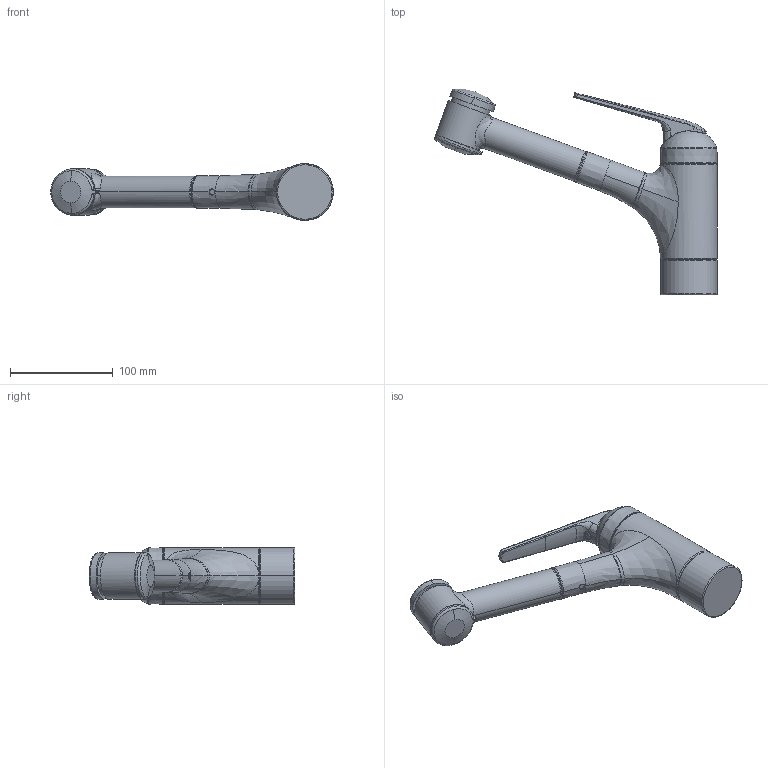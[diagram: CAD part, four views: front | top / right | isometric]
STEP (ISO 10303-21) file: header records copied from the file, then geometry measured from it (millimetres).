
FILE_DESCRIPTION((''),'2;1');
FILE_NAME('10_061_053_XXX','2012-06-08T',('azb9'),(''),'PRO/ENGINEER BY PARAMETRIC TECHNOLOGY CORPORATION, 2011080','PRO/ENGINEER BY PARAMETRIC TECHNOLOGY CORPORATION, 2011080','');
FILE_SCHEMA(('AUTOMOTIVE_DESIGN_CC2 { 1 2 10303 214 -1 1 5 2 }'));
Length unit declared in the file: millimetre
Products named in the file (1): 10_061_053_XXX
Bounding box: 275.25 x 200.49 x 55.4 mm (x, y, z)
Volume: 639270.2 mm3; surface area: 68391.2 mm2
Topology: 2 solids, 3 shells, 199 faces, 436 edges, 248 vertices
Faces by surface type: bspline 91, cylinder 43, torus 26, plane 23, sphere 8, cone 8
Entity records: 15710 total; most frequent: CARTESIAN_POINT 9557, ORIENTED_EDGE 864, DIRECTION 632, EDGE_CURVE 432, FILL_AREA_STYLE_COLOUR 396, FILL_AREA_STYLE 396, SURFACE_STYLE_FILL_AREA 396, SURFACE_SIDE_STYLE 396
